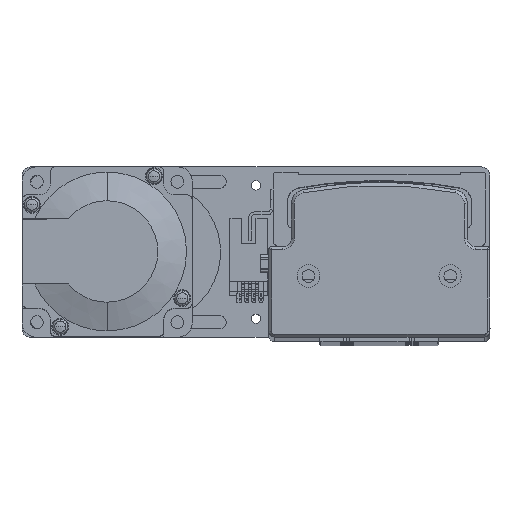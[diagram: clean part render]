
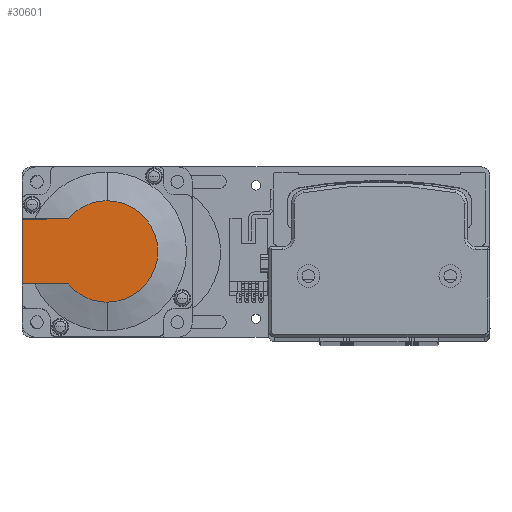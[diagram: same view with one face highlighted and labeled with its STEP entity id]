
A CAD part, top view. The second image highlights one B-rep face of the part: STEP entity #30601.
In plain terms, the highlighted planar face has unit normal (0, 0, 1) as drawn and (-1, 0, 0) by its records, which use the part's own axes.
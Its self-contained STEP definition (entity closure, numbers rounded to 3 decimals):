
#125 = CARTESIAN_POINT ( 'NONE',  ( -118.5, -8.941, -11.45 ) ) ;
#970 = CARTESIAN_POINT ( 'NONE',  ( -118.5, 0., 0. ) ) ;
#1315 = CIRCLE ( 'NONE', #44016, 17.881 ) ;
#1945 = ORIENTED_EDGE ( 'NONE', *, *, #17613, .F. ) ;
#4240 = CIRCLE ( 'NONE', #6204, 17.881 ) ;
#4974 = DIRECTION ( 'NONE',  ( 0., 0., -1. ) ) ;
#5328 = VERTEX_POINT ( 'NONE', #20481 ) ;
#5493 = VECTOR ( 'NONE', #20041, 1000. ) ;
#5905 = DIRECTION ( 'NONE',  ( -1., 0., 0. ) ) ;
#6204 = AXIS2_PLACEMENT_3D ( 'NONE', #970, #28646, #4974 ) ;
#6484 = ORIENTED_EDGE ( 'NONE', *, *, #21007, .T. ) ;
#9757 = FACE_OUTER_BOUND ( 'NONE', #45939, .T. ) ;
#9953 = CARTESIAN_POINT ( 'NONE',  ( -118.5, 0., 11.45 ) ) ;
#9987 = VERTEX_POINT ( 'NONE', #19792 ) ;
#13116 = DIRECTION ( 'NONE',  ( -1., 0., 0. ) ) ;
#14461 = CARTESIAN_POINT ( 'NONE',  ( -118.5, 30., -11.45 ) ) ;
#14791 = VECTOR ( 'NONE', #40764, 1000. ) ;
#15999 = LINE ( 'NONE', #125, #5493 ) ;
#16006 = CARTESIAN_POINT ( 'NONE',  ( -118.5, 13.735, 11.45 ) ) ;
#16436 = CARTESIAN_POINT ( 'NONE',  ( -118.5, 0., 0. ) ) ;
#17613 = EDGE_CURVE ( 'NONE', #47358, #47540, #37087, .T. ) ;
#19792 = CARTESIAN_POINT ( 'NONE',  ( -118.5, 0., 17.881 ) ) ;
#20031 = AXIS2_PLACEMENT_3D ( 'NONE', #29580, #5905, #33587 ) ;
#20041 = DIRECTION ( 'NONE',  ( 0., -1., 0. ) ) ;
#20383 = DIRECTION ( 'NONE',  ( 0., 0., -1. ) ) ;
#20481 = CARTESIAN_POINT ( 'NONE',  ( -118.5, 0., -17.881 ) ) ;
#21007 = EDGE_CURVE ( 'NONE', #9987, #27033, #1315, .T. ) ;
#21538 = VERTEX_POINT ( 'NONE', #27947 ) ;
#22723 = EDGE_CURVE ( 'NONE', #47358, #21538, #15999, .T. ) ;
#23795 = CARTESIAN_POINT ( 'NONE',  ( -118.5, 30., 11.45 ) ) ;
#25237 = LINE ( 'NONE', #9953, #35713 ) ;
#27033 = VERTEX_POINT ( 'NONE', #16006 ) ;
#27947 = CARTESIAN_POINT ( 'NONE',  ( -118.5, 13.735, -11.45 ) ) ;
#28646 = DIRECTION ( 'NONE',  ( -1., 0., 0. ) ) ;
#29580 = CARTESIAN_POINT ( 'NONE',  ( -118.5, 0., 0. ) ) ;
#30601 = ADVANCED_FACE ( 'NONE', ( #9757 ), #44571, .T. ) ;
#30772 = EDGE_CURVE ( 'NONE', #47540, #27033, #25237, .T. ) ;
#33214 = AXIS2_PLACEMENT_3D ( 'NONE', #36772, #13116, #40775 ) ;
#33587 = DIRECTION ( 'NONE',  ( 0., 0., -1. ) ) ;
#35031 = EDGE_CURVE ( 'NONE', #21538, #5328, #4240, .T. ) ;
#35713 = VECTOR ( 'NONE', #37132, 1000. ) ;
#36274 = CIRCLE ( 'NONE', #20031, 17.881 ) ;
#36772 = CARTESIAN_POINT ( 'NONE',  ( -118.5, -8.941, 0. ) ) ;
#37087 = LINE ( 'NONE', #48545, #14791 ) ;
#37132 = DIRECTION ( 'NONE',  ( 0., -1., 0. ) ) ;
#39706 = ORIENTED_EDGE ( 'NONE', *, *, #22723, .T. ) ;
#40764 = DIRECTION ( 'NONE',  ( 0., 0., 1. ) ) ;
#40775 = DIRECTION ( 'NONE',  ( 0., 0., 1. ) ) ;
#43654 = ORIENTED_EDGE ( 'NONE', *, *, #30772, .F. ) ;
#44016 = AXIS2_PLACEMENT_3D ( 'NONE', #16436, #44096, #20383 ) ;
#44096 = DIRECTION ( 'NONE',  ( -1., 0., 0. ) ) ;
#44571 = PLANE ( 'NONE',  #33214 ) ;
#45939 = EDGE_LOOP ( 'NONE', ( #39706, #46027, #48658, #6484, #43654, #1945 ) ) ;
#46027 = ORIENTED_EDGE ( 'NONE', *, *, #35031, .T. ) ;
#46719 = EDGE_CURVE ( 'NONE', #5328, #9987, #36274, .T. ) ;
#47358 = VERTEX_POINT ( 'NONE', #14461 ) ;
#47540 = VERTEX_POINT ( 'NONE', #23795 ) ;
#48545 = CARTESIAN_POINT ( 'NONE',  ( -118.5, 30., 25. ) ) ;
#48658 = ORIENTED_EDGE ( 'NONE', *, *, #46719, .T. ) ;
